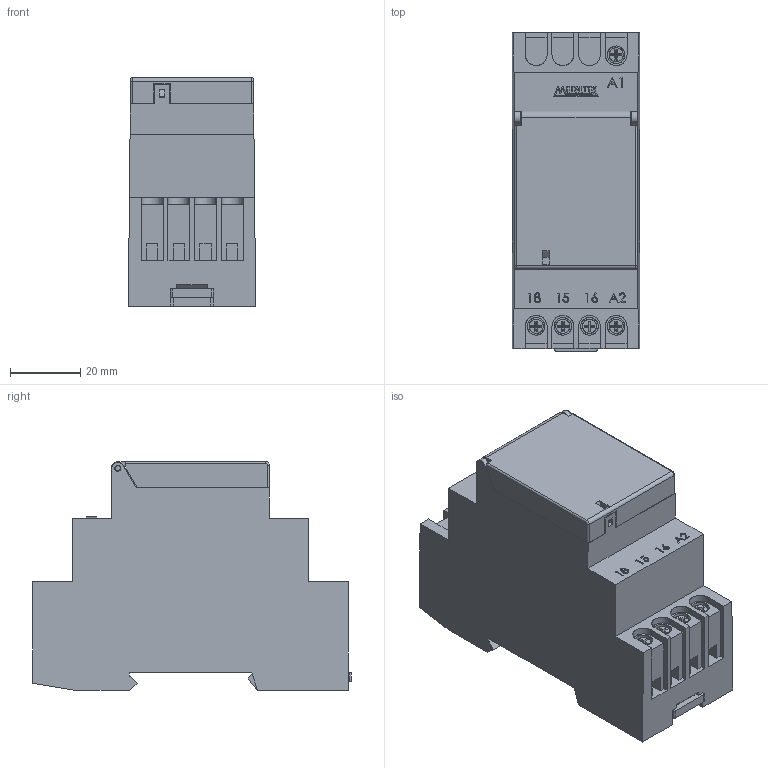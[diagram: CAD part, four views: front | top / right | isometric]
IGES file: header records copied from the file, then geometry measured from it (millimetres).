
Start section: SolidWorks IGES file using analytic representation for surfaces
Global section: file name: D:\X - Arquivos\PROEX\Empresas\P11 - METALTEX\01 - Produtos\IGES\5ª remessa\1ª etapa\TM-ADIN.IGS; native system: SolidWorks 2012; preprocessor: SolidWorks 2012; author: Usuario; date: 180712.143348; units: millimetre
Bounding box: 36.3 x 90.8 x 65.14 mm (x, y, z)
Surface area: 26862.9 mm2 (no closed solid volume)
Topology: 0 solids, 0 shells, 651 faces, 5900 edges, 5900 vertices
Faces by surface type: bspline 593, revolution 58
